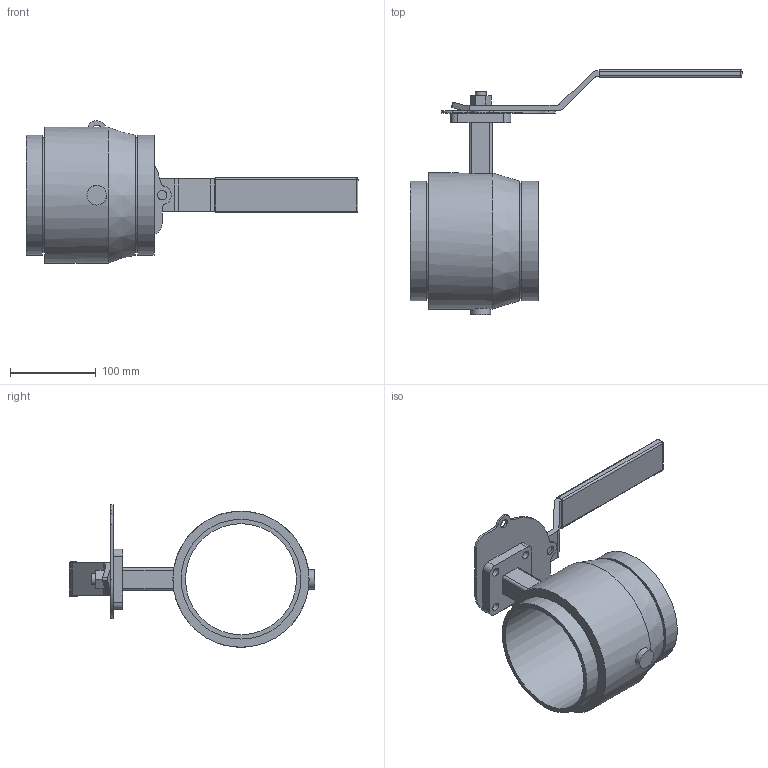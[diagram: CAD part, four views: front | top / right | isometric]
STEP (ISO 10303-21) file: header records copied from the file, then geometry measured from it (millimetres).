
FILE_DESCRIPTION(/* description */ ('VIC STRENGTHIN 300 MASTERSEAL BUTTERFLY VALVE E461 w/LH','CAx-IF Rec.Pracs.---Representation and Presentation of Product Manufacturing Information (PMI)---4.0---2014-10-13'),/* implementation_level */ '2;1');
FILE_NAME(/* name */ 'C:\Users\Vjadhav\AppData\Roaming\Autodesk\ApplicationPlugins\Back Up\Victaulic_SS-StrengThin 100_Valve Butterfly Lever Handle_Series E461 (ST1)\Victaulic_SS-StrengThin 100_Valve Butterfly Lever Handle_05.0 (139.7) (125).stp',/* time_stamp */ '2020-07-07T16:33:51+05:00',/* author */ ('jbrannon'),/* organization */ ('Victaulic'),/* preprocessor_version */ 'ST-DEVELOPER v17.2',/* originating_system */ 'Autodesk Inventor 2019',/* authorisation */ '');
FILE_SCHEMA (('AP242_MANAGED_MODEL_BASED_3D_ENGINEERING_MIM_LF { 1 0 10303 442 1 1 4 }'));
Length unit declared in the file: inch
Products named in the file (4): E461-05.0 (139.7); E461-05.0 (139.7)_1; E461-02.0; E461-05.0
Assembly tree (3 placements, depth 2):
  E461-05.0 (139.7)
    E461-05.0 (139.7)_1
    E461-02.0
    E461-05.0
Bounding box: 387.34 x 286.01 x 166.24 mm (x, y, z)
Volume: 950264.9 mm3; surface area: 227301.5 mm2
Topology: 3 solids, 3 shells, 107 faces, 273 edges, 181 vertices
Faces by surface type: cylinder 52, plane 50, sphere 4, cone 1
Full cylindrical faces by diameter (mm): 9.652 x8, 10.668 x2, 12.7 x2, 18.288 x1, 22.86 x1, 54.102 x1, 129.54 x1, 134.518 x2, 139.7 x2, 158.75 x1
Entity records: 3675 total; most frequent: CARTESIAN_POINT 639, DIRECTION 609, ORIENTED_EDGE 546, EDGE_CURVE 273, AXIS2_PLACEMENT_3D 229, VERTEX_POINT 181, LINE 151, VECTOR 151
